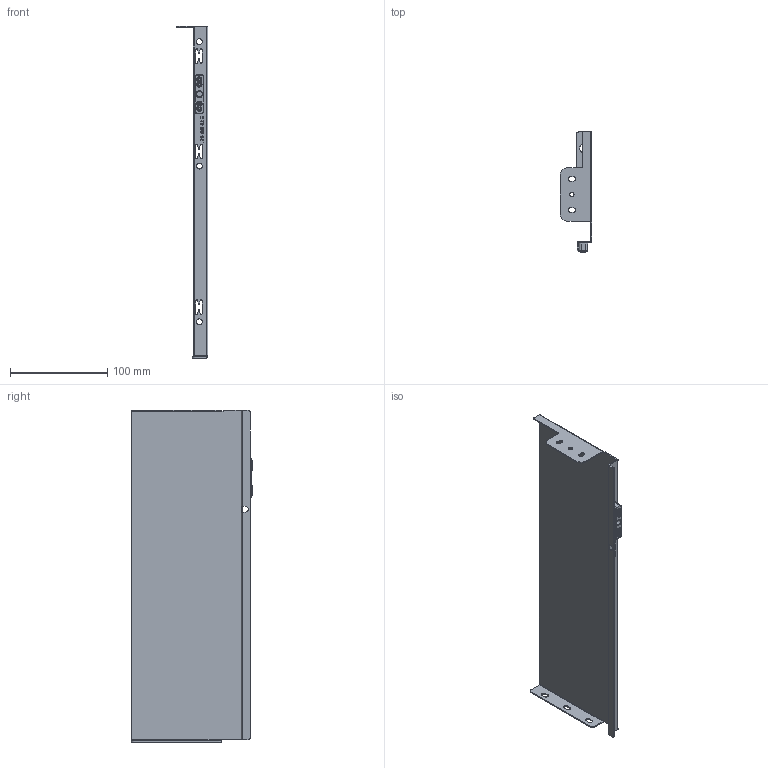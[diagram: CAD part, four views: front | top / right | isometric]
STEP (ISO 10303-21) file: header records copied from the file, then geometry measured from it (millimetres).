
FILE_DESCRIPTION (( 'STEP AP203' ), '1' );
FILE_NAME ('HL12350R.STEP', '2021-07-31T00:35:55', ( 'Users' ), ( 'Microsoft' ), 'SwSTEP 2.0', 'SolidWorks 2018', '' );
FILE_SCHEMA (( 'CONFIG_CONTROL_DESIGN' ));
Length unit declared in the file: millimetre
Products named in the file (1): HL12350R
Bounding box: 32.6 x 124.7 x 341.2 mm (x, y, z)
Volume: 61468.8 mm3; surface area: 100874.7 mm2
Topology: 1 solids, 1 shells, 418 faces, 1134 edges, 734 vertices
Faces by surface type: plane 155, cylinder 146, bspline 60, torus 55, cone 2
Entity records: 16576 total; most frequent: CARTESIAN_POINT 5992, ORIENTED_EDGE 2260, DIRECTION 2133, EDGE_CURVE 1130, AXIS2_PLACEMENT_3D 768, VERTEX_POINT 734, VECTOR 597, LINE 597
